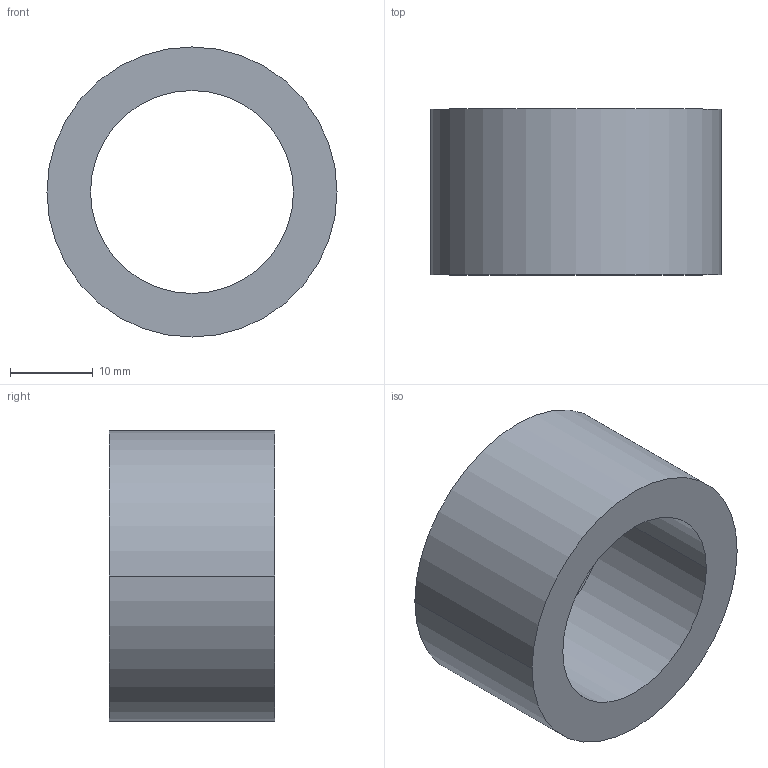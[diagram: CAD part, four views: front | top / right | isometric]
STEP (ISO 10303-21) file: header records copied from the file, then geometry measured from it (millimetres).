
FILE_DESCRIPTION (( 'STEP AP203' ), '1' );
FILE_NAME ('30800.WPP35H24.5.step', '2019-01-23T22:48:57', ( '' ), ( '' ), 'SwSTEP 2.0', 'SolidWorks 2017', '' );
FILE_SCHEMA (( 'CONFIG_CONTROL_DESIGN' ));
Length unit declared in the file: millimetre
Products named in the file (1): 30800.WPP35H24.5
Bounding box: 35 x 20 x 35 mm (x, y, z)
Volume: 9656.8 mm3; surface area: 4624.7 mm2
Topology: 1 solids, 1 shells, 8 faces, 16 edges, 10 vertices
Faces by surface type: cylinder 4, torus 2, plane 2
Entity records: 297 total; most frequent: DIRECTION 46, CARTESIAN_POINT 35, ORIENTED_EDGE 32, AXIS2_PLACEMENT_3D 21, EDGE_CURVE 16, CIRCLE 12, VERTEX_POINT 10, EDGE_LOOP 10
